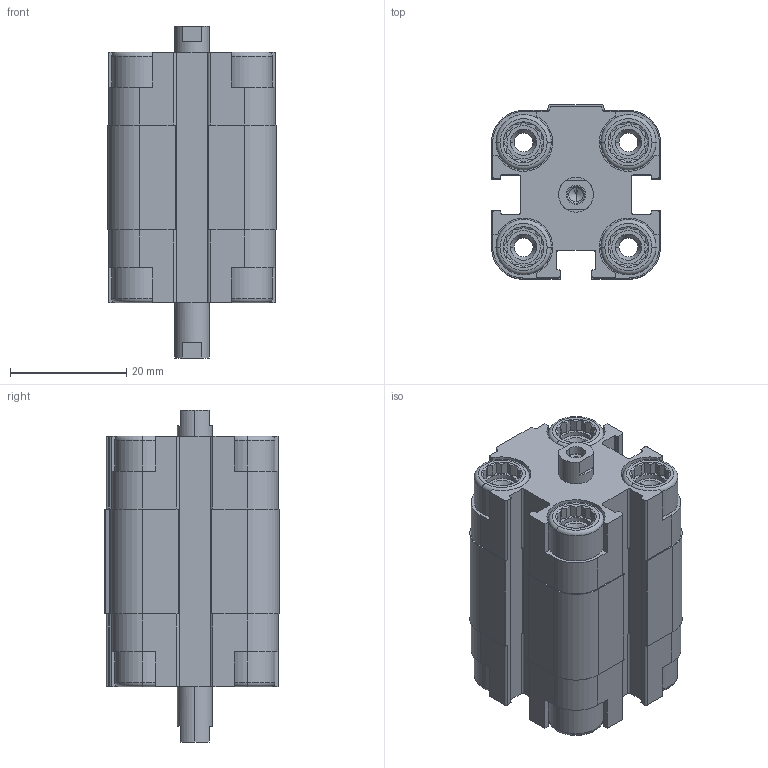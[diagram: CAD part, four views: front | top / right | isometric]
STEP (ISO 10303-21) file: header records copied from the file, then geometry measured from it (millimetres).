
FILE_DESCRIPTION (( 'STEP AP203' ), '1' );
FILE_NAME ('CDVU12-5F-P.STEP', '2020-07-24T18:00:10', ( '' ), ( '' ), 'SwSTEP 2.0', 'SolidWorks 2019', '' );
FILE_SCHEMA (( 'CONFIG_CONTROL_DESIGN' ));
Length unit declared in the file: millimetre
Products named in the file (1): CDVU12-5F-P
Bounding box: 29 x 30 x 57 mm (x, y, z)
Volume: 27391.5 mm3; surface area: 14407.1 mm2
Topology: 2 solids, 2 shells, 566 faces, 1508 edges, 980 vertices
Faces by surface type: plane 338, cylinder 164, cone 48, torus 16
Entity records: 17779 total; most frequent: CARTESIAN_POINT 3623, ORIENTED_EDGE 3000, DIRECTION 2850, EDGE_CURVE 1500, VERTEX_POINT 980, AXIS2_PLACEMENT_3D 975, LINE 900, VECTOR 900
